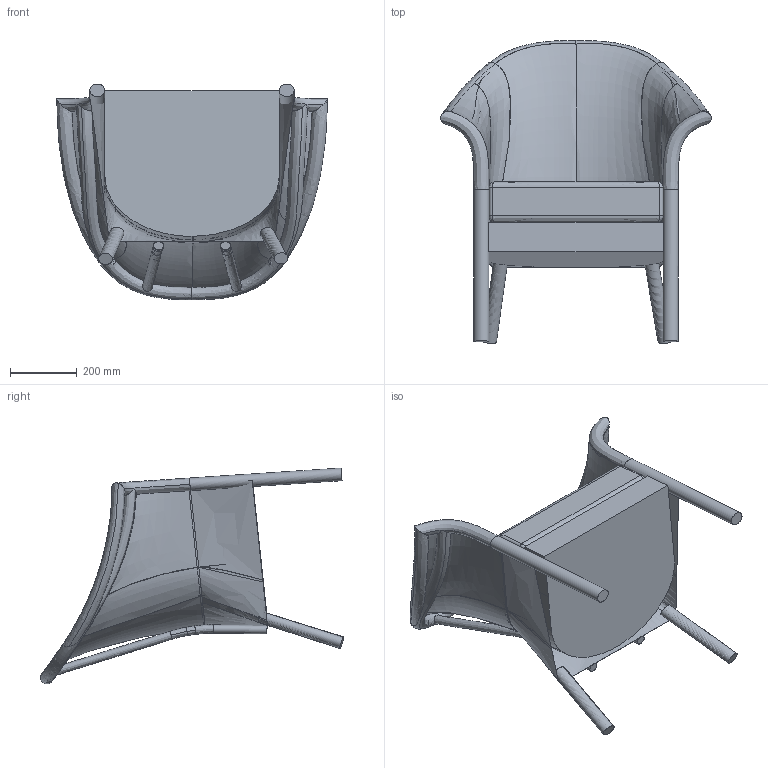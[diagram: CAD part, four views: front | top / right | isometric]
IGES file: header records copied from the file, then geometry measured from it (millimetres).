
Global section: file name: VincentSheppard_VictorXLDX; native system: unknown; preprocessor: unknown; author: ict@vincentsheppard.com; organization: unknown; date: 20180522.133037; units: millimetre
Bounding box: 812.44 x 910.05 x 648.2 mm (x, y, z)
Volume: 50804996.8 mm3; surface area: 2968775.4 mm2
Topology: 5 solids, 5 shells, 104 faces, 797 edges, 711 vertices
Faces by surface type: bspline 104
